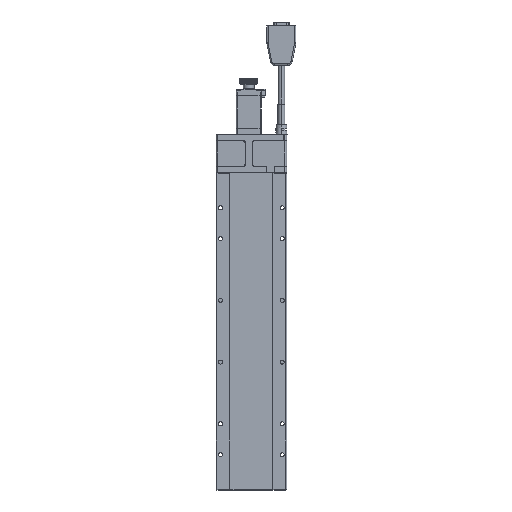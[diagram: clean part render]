
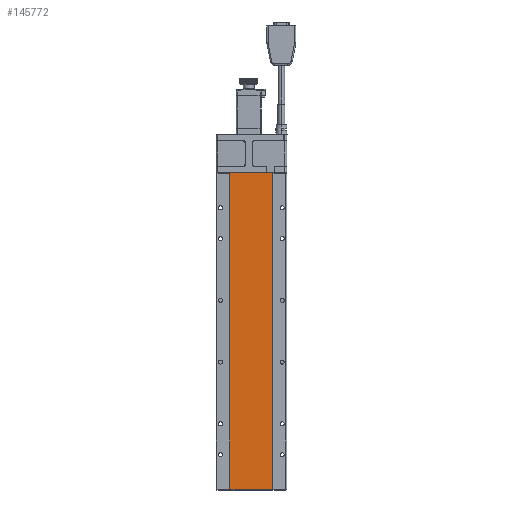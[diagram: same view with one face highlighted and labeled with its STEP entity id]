
A CAD part, front view. The second image highlights one B-rep face of the part: STEP entity #145772.
In plain terms, the highlighted planar face has unit normal (0, -1, 0).
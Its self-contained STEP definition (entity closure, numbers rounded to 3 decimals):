
#287 = CARTESIAN_POINT ( 'NONE',  ( 55.997, 64.1, 59.118 ) ) ;
#3285 = DIRECTION ( 'NONE',  ( -1., 0., 0. ) ) ;
#12034 = DIRECTION ( 'NONE',  ( -1., 0., 0. ) ) ;
#12161 = DIRECTION ( 'NONE',  ( 1., 0., 0. ) ) ;
#12196 = VERTEX_POINT ( 'NONE', #15378 ) ;
#15378 = CARTESIAN_POINT ( 'NONE',  ( 55.997, 64.1, 59.118 ) ) ;
#17921 = VECTOR ( 'NONE', #3285, 1000. ) ;
#19676 = CARTESIAN_POINT ( 'NONE',  ( 104.597, 64.1, 418.718 ) ) ;
#23415 = CARTESIAN_POINT ( 'NONE',  ( 55.997, 64.1, 59.118 ) ) ;
#24079 = CARTESIAN_POINT ( 'NONE',  ( 55.997, 64.1, 418.718 ) ) ;
#28423 = CARTESIAN_POINT ( 'NONE',  ( 104.597, 64.1, 59.118 ) ) ;
#41910 = VERTEX_POINT ( 'NONE', #19676 ) ;
#43780 = EDGE_LOOP ( 'NONE', ( #52593, #63545, #87279, #145624 ) ) ;
#48182 = FACE_OUTER_BOUND ( 'NONE', #43780, .T. ) ;
#49283 = DIRECTION ( 'NONE',  ( 0., 0., -1. ) ) ;
#49773 = DIRECTION ( 'NONE',  ( 0., 1., 0. ) ) ;
#52593 = ORIENTED_EDGE ( 'NONE', *, *, #116488, .T. ) ;
#53333 = LINE ( 'NONE', #28423, #72010 ) ;
#57250 = VERTEX_POINT ( 'NONE', #66202 ) ;
#60368 = VECTOR ( 'NONE', #49283, 1000. ) ;
#63545 = ORIENTED_EDGE ( 'NONE', *, *, #151532, .T. ) ;
#65086 = CARTESIAN_POINT ( 'NONE',  ( 55.997, 64.1, 418.718 ) ) ;
#66202 = CARTESIAN_POINT ( 'NONE',  ( 55.997, 64.1, 418.718 ) ) ;
#72010 = VECTOR ( 'NONE', #90284, 1000. ) ;
#87279 = ORIENTED_EDGE ( 'NONE', *, *, #150599, .T. ) ;
#90284 = DIRECTION ( 'NONE',  ( 0., 0., 1. ) ) ;
#95177 = VECTOR ( 'NONE', #12161, 1000. ) ;
#104167 = AXIS2_PLACEMENT_3D ( 'NONE', #24079, #49773, #12034 ) ;
#116488 = EDGE_CURVE ( 'NONE', #57250, #12196, #148074, .T. ) ;
#119533 = VERTEX_POINT ( 'NONE', #135548 ) ;
#122221 = LINE ( 'NONE', #23415, #95177 ) ;
#124086 = EDGE_CURVE ( 'NONE', #41910, #57250, #126157, .T. ) ;
#126157 = LINE ( 'NONE', #65086, #17921 ) ;
#132541 = PLANE ( 'NONE',  #104167 ) ;
#135548 = CARTESIAN_POINT ( 'NONE',  ( 104.597, 64.1, 59.118 ) ) ;
#145624 = ORIENTED_EDGE ( 'NONE', *, *, #124086, .T. ) ;
#145772 = ADVANCED_FACE ( 'NONE', ( #48182 ), #132541, .F. ) ;
#148074 = LINE ( 'NONE', #287, #60368 ) ;
#150599 = EDGE_CURVE ( 'NONE', #119533, #41910, #53333, .T. ) ;
#151532 = EDGE_CURVE ( 'NONE', #12196, #119533, #122221, .T. ) ;
